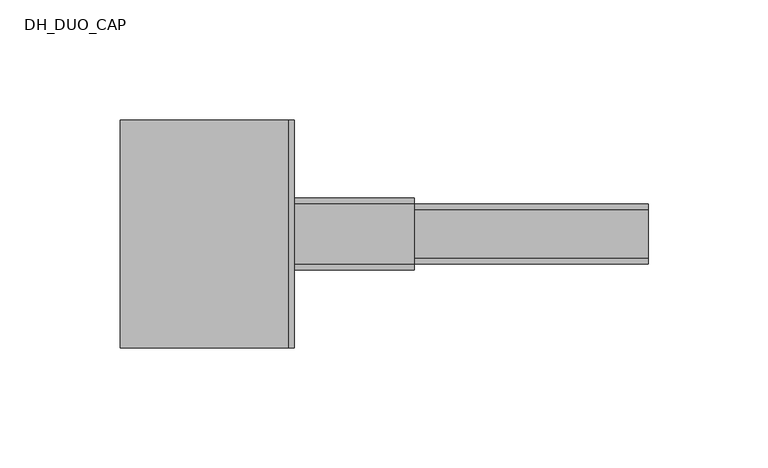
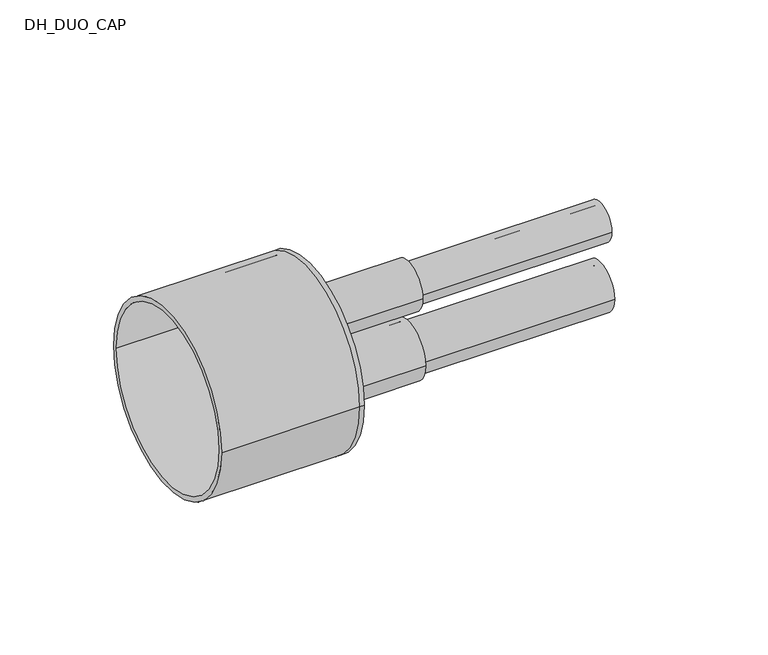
"""IFC4 building model written with IfcOpenShell, lengths in millimetres: pipe fitting geometry, DH_DUO_CAP : INSULPEX DUO 7.4 DW - Rubber Cap."""

from ifc_helpers import new_model, si_unit, point, frame, frame_2d, origin, place, context, project, spatial, polyline, circle_curve, trimmed, segment, composite_curve, outline, extrude, source, transform, mapped, element, save
from ifc_brep_helpers import plane_surface, cylinder_surface, revolved_surface, advanced_brep


def dh_duo_cap_875ec6dc(model_context):
    return source(origin(), model_context, "Body", "SolidModel", [
        extrude(outline(composite_curve([segment(trimmed(circle_curve(frame_2d((0.0, -16.0)), 12.5), [point((-12.5, -16.0))], [point((12.5, -16.0))], False, "CARTESIAN"), True, "CONTINUOUS"), segment(trimmed(circle_curve(frame_2d((0.0, -16.0)), 12.5), [point((12.5, -16.0))], [point((-12.5, -16.0))], False, "CARTESIAN"), True, "CONTINUOUS")], self_intersect=False), holes=[composite_curve([segment(trimmed(circle_curve(frame_2d((0.0, -16.0)), 9.0), [point((-9.0, -16.0))], [point((9.0, -16.0))], True, "CARTESIAN"), True, "CONTINUOUS"), segment(trimmed(circle_curve(frame_2d((0.0, -16.0)), 9.0), [point((9.0, -16.0))], [point((-9.0, -16.0))], True, "CARTESIAN"), True, "CONTINUOUS")], self_intersect=False)]), frame((0.0, 0.0, 0.0), z_axis=(1.0, 0.0, 0.0), x_axis=(0.0, 1.0, 0.0)), (0.0, 0.0, 1.0), 150.0),
        extrude(outline(composite_curve([segment(trimmed(circle_curve(frame_2d((0.0, 18.5)), 10.0), [point((-10.0, 18.5))], [point((10.0, 18.5))], False, "CARTESIAN"), True, "CONTINUOUS"), segment(trimmed(circle_curve(frame_2d((0.0, 18.5)), 10.0), [point((10.0, 18.5))], [point((-10.0, 18.5))], False, "CARTESIAN"), True, "CONTINUOUS")], self_intersect=False), holes=[composite_curve([segment(trimmed(circle_curve(frame_2d((0.0, 18.5)), 7.2), [point((-7.2, 18.5))], [point((7.2, 18.5))], True, "CARTESIAN"), True, "CONTINUOUS"), segment(trimmed(circle_curve(frame_2d((0.0, 18.5)), 7.2), [point((7.2, 18.5))], [point((-7.2, 18.5))], True, "CARTESIAN"), True, "CONTINUOUS")], self_intersect=False)]), frame((0.0, 0.0, 0.0), z_axis=(1.0, 0.0, 0.0), x_axis=(0.0, 1.0, 0.0)), (0.0, 0.0, 1.0), 150.0),
        advanced_brep(
        [(-70.0, -47.5, 0.0), (-70.0, 47.5, 0.0), (-70.0, -45.0, 0.0), (-70.0, 45.0, 0.0), (0.0, -45.0, 0.0), (0.0, 45.0, 0.0), (0.0, -47.5, 0.0), (0.0, 47.5, 0.0), (0.0, 10.0, 18.5), (0.0, -10.0, 18.5), (0.0, 12.5, -16.0), (0.0, -12.5, -16.0), (2.5, -47.5, 0.0), (2.5, 47.5, 0.0), (2.5, -10.0, 18.5), (2.5, 10.0, 18.5), (2.5, -12.5, -16.0), (2.5, 12.5, -16.0)],
        [
            (0, 1, circle_curve(frame((-70.0, 0.0, 0.0), z_axis=(-1.0, 0.0, 0.0), x_axis=(0.0, 1.0, 0.0)), 47.5)),
            (1, 0, circle_curve(frame((-70.0, 0.0, 0.0), z_axis=(-1.0, 0.0, 0.0), x_axis=(0.0, 1.0, 0.0)), 47.5)),
            (2, 3, circle_curve(frame((-70.0, 0.0, 0.0), z_axis=(1.0, 0.0, 0.0), x_axis=(0.0, 1.0, 0.0)), 45.0)),
            (3, 2, circle_curve(frame((-70.0, 0.0, 0.0), z_axis=(1.0, 0.0, 0.0), x_axis=(0.0, 1.0, 0.0)), 45.0)),
            (2, 4),
            (4, 5, circle_curve(frame((0.0, 0.0, 0.0), z_axis=(1.0, 0.0, 0.0), x_axis=(0.0, 1.0, 0.0)), 45.0)),
            (5, 3),
            (5, 4, circle_curve(frame((0.0, 0.0, 0.0), z_axis=(1.0, 0.0, 0.0), x_axis=(0.0, 1.0, 0.0)), 45.0)),
            (0, 6),
            (6, 7, circle_curve(frame((0.0, 0.0, 0.0), z_axis=(-1.0, 0.0, 0.0), x_axis=(0.0, 1.0, 0.0)), 47.5)),
            (7, 1),
            (7, 6, circle_curve(frame((0.0, 0.0, 0.0), z_axis=(-1.0, 0.0, 0.0), x_axis=(0.0, 1.0, 0.0)), 47.5)),
            (8, 9, circle_curve(frame((0.0, 0.0, 18.5), z_axis=(1.0, 0.0, 0.0), x_axis=(0.0, 1.0, 0.0)), 10.0)),
            (9, 8, circle_curve(frame((0.0, 0.0, 18.5), z_axis=(1.0, 0.0, 0.0), x_axis=(0.0, 1.0, 0.0)), 10.0)),
            (10, 11, circle_curve(frame((0.0, 0.0, -16.0), z_axis=(1.0, 0.0, 0.0), x_axis=(0.0, 1.0, 0.0)), 12.5)),
            (11, 10, circle_curve(frame((0.0, 0.0, -16.0), z_axis=(1.0, 0.0, 0.0), x_axis=(0.0, 1.0, 0.0)), 12.5)),
            (12, 13, circle_curve(frame((2.5, 0.0, 0.0), z_axis=(1.0, 0.0, 0.0), x_axis=(0.0, 1.0, 0.0)), 47.5)),
            (13, 12, circle_curve(frame((2.5, 0.0, 0.0), z_axis=(1.0, 0.0, 0.0), x_axis=(0.0, 1.0, 0.0)), 47.5)),
            (14, 15, circle_curve(frame((2.5, 0.0, 18.5), z_axis=(-1.0, 0.0, 0.0), x_axis=(0.0, 1.0, 0.0)), 10.0)),
            (15, 14, circle_curve(frame((2.5, 0.0, 18.5), z_axis=(-1.0, 0.0, 0.0), x_axis=(0.0, 1.0, 0.0)), 10.0)),
            (16, 17, circle_curve(frame((2.5, 0.0, -16.0), z_axis=(-1.0, 0.0, 0.0), x_axis=(0.0, 1.0, 0.0)), 12.5)),
            (17, 16, circle_curve(frame((2.5, 0.0, -16.0), z_axis=(-1.0, 0.0, 0.0), x_axis=(0.0, 1.0, 0.0)), 12.5)),
            (13, 7),
            (6, 12),
            (8, 15),
            (14, 9),
            (10, 17),
            (16, 11),
        ],
        [
            plane_surface(frame((-70.0, 0.0, 0.0), z_axis=(-1.0, 0.0, 0.0), x_axis=(0.0, 0.0, 1.0))),
            revolved_surface(polyline([(0.0, 45.0, 0.0), (-70.0, 45.0, 0.0)]), (-70.0, 0.0, 0.0), (1.0, 0.0, 0.0)),
            cylinder_surface(frame((-70.0, 0.0, 0.0), z_axis=(-1.0, 0.0, 0.0), x_axis=(0.0, 1.0, 0.0)), 47.5),
            plane_surface(frame((0.0, 0.0, 0.0), z_axis=(-1.0, 0.0, 0.0), x_axis=(0.0, 0.0, 1.0))),
            plane_surface(frame((2.5, 0.0, 0.0), z_axis=(1.0, 0.0, 0.0), x_axis=(0.0, 0.0, 1.0))),
            cylinder_surface(frame((0.0, 0.0, 0.0), z_axis=(-1.0, 0.0, 0.0), x_axis=(0.0, 1.0, 0.0)), 47.5),
            revolved_surface(polyline([(0.0, 10.0, 18.5), (2.5, 10.0, 18.5)]), (0.0, 0.0, 18.5), (-1.0, 0.0, 0.0)),
            revolved_surface(polyline([(0.0, 12.5, -16.0), (2.5, 12.5, -16.0)]), (0.0, 0.0, -16.0), (-1.0, 0.0, 0.0)),
        ],
        [
            (0, [[1, 2], [3, 4]]),
            (1, [[-3, 5, 6, 7]]),
            (1, [[-4, -7, 8, -5]]),
            (2, [[-1, 9, 10, 11]]),
            (2, [[-2, -11, 12, -9]]),
            (3, [[-6, -8], [13, 14], [15, 16]]),
            (4, [[17, 18], [19, 20], [21, 22]]),
            (5, [[-18, 23, -10, 24]]),
            (5, [[-17, -24, -12, -23]]),
            (6, [[25, -19, 26, -13]]),
            (6, [[-25, -14, -26, -20]]),
            (7, [[27, -21, 28, -15]]),
            (7, [[-27, -16, -28, -22]]),
        ],
    ),
        extrude(outline(composite_curve([segment(trimmed(circle_curve(frame_2d((0.0, -16.0)), 15.0), [point((-15.0, -16.0))], [point((15.0, -16.0))], False, "CARTESIAN"), True, "CONTINUOUS"), segment(trimmed(circle_curve(frame_2d((0.0, -16.0)), 15.0), [point((15.0, -16.0))], [point((-15.0, -16.0))], False, "CARTESIAN"), True, "CONTINUOUS")], self_intersect=False), holes=[composite_curve([segment(trimmed(circle_curve(frame_2d((0.0, -16.0)), 12.5), [point((-12.5, -16.0))], [point((12.5, -16.0))], True, "CARTESIAN"), True, "CONTINUOUS"), segment(trimmed(circle_curve(frame_2d((0.0, -16.0)), 12.5), [point((12.5, -16.0))], [point((-12.5, -16.0))], True, "CARTESIAN"), True, "CONTINUOUS")], self_intersect=False)]), frame((2.5, 0.0, 0.0), z_axis=(1.0, 0.0, 0.0), x_axis=(0.0, 1.0, 0.0)), (0.0, 0.0, 1.0), 50.0),
        extrude(outline(composite_curve([segment(trimmed(circle_curve(frame_2d((0.0, 18.5)), 12.5), [point((-12.5, 18.5))], [point((12.5, 18.5))], False, "CARTESIAN"), True, "CONTINUOUS"), segment(trimmed(circle_curve(frame_2d((0.0, 18.5)), 12.5), [point((12.5, 18.5))], [point((-12.5, 18.5))], False, "CARTESIAN"), True, "CONTINUOUS")], self_intersect=False), holes=[composite_curve([segment(trimmed(circle_curve(frame_2d((0.0, 18.5)), 10.0), [point((-10.0, 18.5))], [point((10.0, 18.5))], True, "CARTESIAN"), True, "CONTINUOUS"), segment(trimmed(circle_curve(frame_2d((0.0, 18.5)), 10.0), [point((10.0, 18.5))], [point((-10.0, 18.5))], True, "CARTESIAN"), True, "CONTINUOUS")], self_intersect=False)]), frame((2.5, 0.0, 0.0), z_axis=(1.0, 0.0, 0.0), x_axis=(0.0, 1.0, 0.0)), (0.0, 0.0, 1.0), 50.0),
    ])


if __name__ == "__main__":
    model = new_model("IFC4")
    model_context = context("Model", 3, world=origin())
    ifc_project = project(units=[si_unit("LENGTHUNIT", "METRE", prefix="MILLI")], contexts=[model_context])
    site = spatial("IfcSite", under=ifc_project)
    building = spatial("IfcBuilding", under=site)
    placement = place(None, origin())
    dh_duo_cap_shape = dh_duo_cap_875ec6dc(model_context)
    element("IfcPipeFitting", 1, ObjectType="DH_DUO_CAP : INSULPEX DUO 7.4 DW - Rubber Cap", at=placement, inside=building, context=model_context, shape_type="MappedRepresentation", body=[
        mapped(dh_duo_cap_shape, transform((0.0, 0.0, 0.0), x_axis=(1.0, 0.0, 0.0), y_axis=(0.0, 1.0, 0.0), z_axis=(0.0, 0.0, 1.0))),
    ])
    save(model, "model.ifc")
